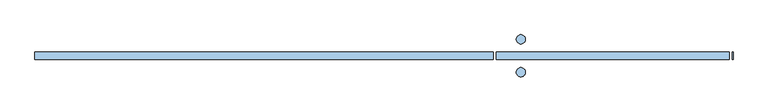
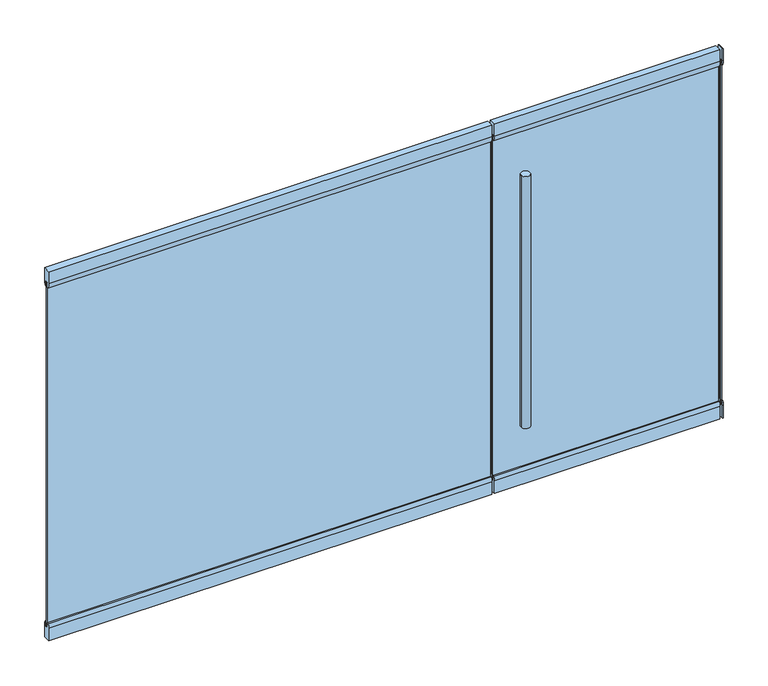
"""IFC4 building model written with IfcOpenShell, lengths in millimetres: window geometry, Herculite-1 Puerta : VL-1 - Herculite-1 Puerta 3.8 X 2.20."""

import ifcopenshell
import ifcopenshell.guid

model = None  # the IFC model being written
_history = None  # IfcOwnerHistory: only IFC2X3 demands one
_inside = {}  # id of a spatial element -> (the spatial element, [elements in it])
_under = {}  # id of a project, library or spatial element -> (it, [spatial elements below it])
_declared = {}  # id of a project -> (the project, [libraries it declares])
_typed = {}  # id of a type object -> (the type object, [elements of that type])
_made_of = {}  # id of a material, layer set ... -> (it, [elements and type objects made of it])


def new_model(schema):
    """Start an empty IFC model of exactly this schema.

    Asked for "IFC4X3", IfcOpenShell would pick the latest addendum, in which some entities
    have other attributes; the version numbers below select the first issue.
    IFC2X3 requires an IfcOwnerHistory on every rooted entity: one is made here for all.
    """
    global model, _history
    if schema == "IFC4X3":
        model = ifcopenshell.file(schema_version=(4, 3, 0, 0))
    else:
        model = ifcopenshell.file(schema=schema)
    _inside.clear()
    _under.clear()
    _declared.clear()
    _typed.clear()
    _made_of.clear()
    _history = None
    if model.schema == "IFC2X3":
        org = make("IfcOrganization", Name="unknown")
        user = make(
            "IfcPersonAndOrganization",
            ThePerson=make("IfcPerson", FamilyName="unknown"),
            TheOrganization=org,
        )
        app = make(
            "IfcApplication",
            ApplicationDeveloper=org,
            Version="unknown",
            ApplicationFullName="unknown",
            ApplicationIdentifier="unknown",
        )
        _history = make(
            "IfcOwnerHistory",
            OwningUser=user,
            OwningApplication=app,
            ChangeAction="ADDED",
            CreationDate=0,
        )
    return model


def make(cls, **values):
    """One entity of the class cls with the attributes given. An attribute that is None is left unset."""
    return model.create_entity(
        cls, **{name: value for name, value in values.items() if value is not None}
    )


def rooted(cls, **values):
    """An entity with a GlobalId (a new one), such as an element, a storey or a relation."""
    return make(cls, GlobalId=ifcopenshell.guid.new(), OwnerHistory=_history, **values)


def si_unit(unit_type, name, prefix=None):
    """IfcSIUnit, for example si_unit("LENGTHUNIT", "METRE", prefix="MILLI")."""
    return make("IfcSIUnit", UnitType=unit_type, Prefix=prefix, Name=name)


def assignment(units):
    """IfcUnitAssignment: the units of a project."""
    return None if units is None else make("IfcUnitAssignment", Units=units)


def point(xyz):
    """IfcCartesianPoint."""
    return None if xyz is None else make("IfcCartesianPoint", Coordinates=xyz)


def direction(xyz):
    """IfcDirection."""
    return None if xyz is None else make("IfcDirection", DirectionRatios=xyz)


def frame(location, z_axis=None, x_axis=None):
    """IfcAxis2Placement3D, a coordinate frame: its origin and axes. An axis left out is left unset."""
    return make(
        "IfcAxis2Placement3D",
        Location=point(location),
        Axis=direction(z_axis),
        RefDirection=direction(x_axis),
    )


def frame_2d(location, x_axis=None):
    """IfcAxis2Placement2D, a coordinate frame in the plane: its origin and x axis."""
    return make(
        "IfcAxis2Placement2D", Location=point(location), RefDirection=direction(x_axis)
    )


def origin():
    """The frame at (0, 0, 0) with its axes left unset."""
    return frame((0.0, 0.0, 0.0))


def place(relative_to, where):
    """IfcLocalPlacement: puts the frame where relative to a parent placement (None: the world)."""
    return make(
        "IfcLocalPlacement", PlacementRelTo=relative_to, RelativePlacement=where
    )


def context(
    kind, dimensions, precision=None, world=None, true_north=None, identifier=None
):
    """IfcGeometricRepresentationContext, for example the 3D "Model" context."""
    return make(
        "IfcGeometricRepresentationContext",
        ContextIdentifier=identifier,
        ContextType=kind,
        CoordinateSpaceDimension=dimensions,
        Precision=precision,
        WorldCoordinateSystem=world,
        TrueNorth=true_north,
    )


def project(units=None, contexts=None):
    """IfcProject with its units and contexts."""
    return rooted(
        "IfcProject",
        Name="project",
        RepresentationContexts=contexts,
        UnitsInContext=assignment(units),
    )


def spatial(cls, under=None, at=None, **own):
    """A site, building, storey or space (cls), placed at a placement, below another one or the project."""
    s = rooted(cls, ObjectPlacement=at, **own)
    if under is not None:
        _under.setdefault(under.id(), (under, []))[1].append(s)
    return s


def polyline(points):
    """IfcPolyline through the points."""
    return make("IfcPolyline", Points=[point(p) for p in points])


def circle_curve(where, radius):
    """IfcCircle in the frame where."""
    return make("IfcCircle", Position=where, Radius=radius)


def trimmed(basis, trim1, trim2, sense, master):
    """IfcTrimmedCurve: the piece of a basis curve between two trims."""
    return make(
        "IfcTrimmedCurve",
        BasisCurve=basis,
        Trim1=trim1,
        Trim2=trim2,
        SenseAgreement=sense,
        MasterRepresentation=master,
    )


def segment(curve, same_sense, transition):
    """IfcCompositeCurveSegment."""
    return make(
        "IfcCompositeCurveSegment",
        Transition=transition,
        SameSense=same_sense,
        ParentCurve=curve,
    )


def composite_curve(segments, self_intersect=None):
    """IfcCompositeCurve: segments joined end to end."""
    return make("IfcCompositeCurve", Segments=segments, SelfIntersect=self_intersect)


def outline(outer, holes=None, kind="AREA"):
    """IfcArbitraryClosedProfileDef: a profile drawn as a closed curve; with holes, ...WithVoids."""
    if holes is None:
        return make("IfcArbitraryClosedProfileDef", ProfileType=kind, OuterCurve=outer)
    return make(
        "IfcArbitraryProfileDefWithVoids",
        ProfileType=kind,
        OuterCurve=outer,
        InnerCurves=holes,
    )


def extrude(swept, where, along, depth):
    """IfcExtrudedAreaSolid: the profile swept, set in the frame where, extruded along a direction by depth."""
    return make(
        "IfcExtrudedAreaSolid",
        SweptArea=swept,
        Position=where,
        ExtrudedDirection=direction(along),
        Depth=depth,
    )


def shape(context_of_items, identifier, shape_type, items):
    """IfcShapeRepresentation: the items that make up one representation, for example the "Body"."""
    return make(
        "IfcShapeRepresentation",
        ContextOfItems=context_of_items,
        RepresentationIdentifier=identifier,
        RepresentationType=shape_type,
        Items=items,
    )


def source(mapping_origin, context_of_items, identifier, shape_type, items):
    """IfcRepresentationMap: a shape defined once, which mapped items show again and again."""
    return make(
        "IfcRepresentationMap",
        MappingOrigin=mapping_origin,
        MappedRepresentation=shape(context_of_items, identifier, shape_type, items),
    )


def transform(
    local_origin,
    x_axis=None,
    y_axis=None,
    z_axis=None,
    scale=None,
    scale2=None,
    scale3=None,
    uniform=True,
):
    """IfcCartesianTransformationOperator3D, or its non-uniform kind. x_axis, y_axis, z_axis: its Axis1, 2, 3."""
    if uniform:
        return make(
            "IfcCartesianTransformationOperator3D",
            Axis1=direction(x_axis),
            Axis2=direction(y_axis),
            LocalOrigin=point(local_origin),
            Scale=scale,
            Axis3=direction(z_axis),
        )
    return make(
        "IfcCartesianTransformationOperator3DnonUniform",
        Axis1=direction(x_axis),
        Axis2=direction(y_axis),
        LocalOrigin=point(local_origin),
        Scale=scale,
        Axis3=direction(z_axis),
        Scale2=scale2,
        Scale3=scale3,
    )


def mapped(mapping_source, mapping_target):
    """IfcMappedItem: shows the shape of a source again, moved by a transform."""
    return make(
        "IfcMappedItem", MappingSource=mapping_source, MappingTarget=mapping_target
    )


def made_of(thing, what):
    """Note that an element or type object is made of a material, layer set ...; save() writes the relation."""
    if what is not None:
        _made_of.setdefault(what.id(), (what, []))[1].append(thing)
    return thing


def element(
    cls,
    number,
    at=None,
    inside=None,
    cuts=None,
    type_object=None,
    material=None,
    context=None,
    identifier="Body",
    shape_type=None,
    held_by="IfcProductDefinitionShape",
    body=None,
    shapes=None,
    **own,
):
    """One element of the class cls, such as IfcWall. Its Tag is "e" and its number.

    at: its placement. inside: the storey or other place that contains it. cuts: it is an
    opening in that element (IfcRelVoidsElement). A single representation is given by context,
    identifier, shape_type and body (its items); several are given by shapes. held_by: the class
    of the entity that holds the representations. save() writes the other relations.
    """
    e = rooted(cls, Tag="e%d" % number, ObjectPlacement=at, **own)
    if body is not None:
        shapes = [shape(context, identifier, shape_type, body)]
    if shapes is not None:
        e.Representation = make(held_by, Representations=shapes)
    if inside is not None:
        _inside.setdefault(inside.id(), (inside, []))[1].append(e)
    if cuts is not None:
        rooted(
            "IfcRelVoidsElement", RelatingBuildingElement=cuts, RelatedOpeningElement=e
        )
    if type_object is not None:
        _typed.setdefault(type_object.id(), (type_object, []))[1].append(e)
    return made_of(e, material)


def aggregate(whole, parts):
    """IfcRelAggregates: a whole, such as a stair, and the parts it consists of."""
    return rooted("IfcRelAggregates", RelatingObject=whole, RelatedObjects=parts)


def save(model, path):
    """Write the relations noted so far, then the file.

    IfcRelAggregates (storeys below a building ...), IfcRelContainedInSpatialStructure (elements
    in a storey), IfcRelDefinesByType, IfcRelAssociatesMaterial and IfcRelDeclares: one each for
    every whole, place, type object, material and project.
    """
    for whole, parts in _under.values():
        aggregate(whole, parts)
    for where, things in _inside.values():
        rooted(
            "IfcRelContainedInSpatialStructure",
            RelatedElements=things,
            RelatingStructure=where,
        )
    for kind, things in _typed.values():
        rooted("IfcRelDefinesByType", RelatedObjects=things, RelatingType=kind)
    for what, things in _made_of.values():
        rooted("IfcRelAssociatesMaterial", RelatedObjects=things, RelatingMaterial=what)
    for by, libraries in _declared.values():
        rooted("IfcRelDeclares", RelatingContext=by, RelatedDefinitions=libraries)
    model.write(path)


def window_6fcca72a(model_context):
    return source(origin(), model_context, "Body", "SweptSolid", [
        extrude(outline(composite_curve([segment(polyline([(-7.5, 2100.0), (-15.0, 2100.0)]), True, "CONTINUOUS"), segment(trimmed(circle_curve(frame_2d((80.0, 2131.22499)), 100.0), [point((-15.0, 2100.0))], [point((-20.0, 2131.22499))], False, "CARTESIAN"), True, "CONTINUOUS"), segment(polyline([(-20.0, 2131.22499), (-20.0, 2200.0), (20.0, 2200.0), (20.0, 2131.22499)]), True, "CONTINUOUS"), segment(trimmed(circle_curve(frame_2d((-80.0, 2131.22499)), 100.0), [point((20.0, 2131.22499))], [point((15.0, 2100.0))], False, "CARTESIAN"), True, "CONTINUOUS"), segment(polyline([(15.0, 2100.0), (7.5, 2100.0), (7.5, 2130.0), (-7.5, 2130.0), (-7.5, 2100.0)]), True, "CONTINUOUS")], self_intersect=False)), frame((610.0, 0.0, 0.0), z_axis=(1.0, 0.0, 0.0), x_axis=(0.0, 1.0, 0.0)), (0.0, 0.0, 1.0), 1270.0),
        extrude(outline(composite_curve([segment(polyline([(-7.5, 2100.0), (-15.0, 2100.0)]), True, "CONTINUOUS"), segment(trimmed(circle_curve(frame_2d((80.0, 2131.22499)), 100.0), [point((-15.0, 2100.0))], [point((-20.0, 2131.22499))], False, "CARTESIAN"), True, "CONTINUOUS"), segment(polyline([(-20.0, 2131.22499), (-20.0, 2200.0), (20.0, 2200.0), (20.0, 2131.22499)]), True, "CONTINUOUS"), segment(trimmed(circle_curve(frame_2d((-80.0, 2131.22499)), 100.0), [point((20.0, 2131.22499))], [point((15.0, 2100.0))], False, "CARTESIAN"), True, "CONTINUOUS"), segment(polyline([(15.0, 2100.0), (7.5, 2100.0), (7.5, 2130.0), (-7.5, 2130.0), (-7.5, 2100.0)]), True, "CONTINUOUS")], self_intersect=False)), frame((1895.0, 0.0, 0.0), z_axis=(1.0, 0.0, 0.0), x_axis=(0.0, 1.0, 0.0)), (0.0, 0.0, 1.0), 5.0),
        extrude(outline(composite_curve([segment(polyline([(-7.5, 2100.0), (-15.0, 2100.0)]), True, "CONTINUOUS"), segment(trimmed(circle_curve(frame_2d((80.0, 2131.22499)), 100.0), [point((-15.0, 2100.0))], [point((-20.0, 2131.22499))], False, "CARTESIAN"), True, "CONTINUOUS"), segment(polyline([(-20.0, 2131.22499), (-20.0, 2200.0), (20.0, 2200.0), (20.0, 2131.22499)]), True, "CONTINUOUS"), segment(trimmed(circle_curve(frame_2d((-80.0, 2131.22499)), 100.0), [point((20.0, 2131.22499))], [point((15.0, 2100.0))], False, "CARTESIAN"), True, "CONTINUOUS"), segment(polyline([(15.0, 2100.0), (7.5, 2100.0), (7.5, 2130.0), (-7.5, 2130.0), (-7.5, 2100.0)]), True, "CONTINUOUS")], self_intersect=False)), frame((-1900.0, 0.0, 0.0), z_axis=(1.0, 0.0, 0.0), x_axis=(0.0, 1.0, 0.0)), (0.0, 0.0, 1.0), 2495.0),
        extrude(outline(composite_curve([segment(trimmed(circle_curve(frame_2d((745.1, -90.00005)), 25.0), [point((720.1, -90.00005))], [point((770.1, -90.00005))], False, "CARTESIAN"), True, "CONTINUOUS"), segment(trimmed(circle_curve(frame_2d((745.1, -90.00005)), 25.0), [point((770.1, -90.00005))], [point((720.1, -90.00005))], False, "CARTESIAN"), True, "CONTINUOUS")], self_intersect=False)), frame((0.0, 0.0, 400.0), z_axis=(0.0, 0.0, 1.0), x_axis=(1.0, 0.0, 0.0)), (0.0, 0.0, 1.0), 1500.0),
        extrude(outline(composite_curve([segment(trimmed(circle_curve(frame_2d((745.1, 90.00005)), 25.0), [point((720.1, 90.00005))], [point((770.1, 90.00005))], False, "CARTESIAN"), True, "CONTINUOUS"), segment(trimmed(circle_curve(frame_2d((745.1, 90.00005)), 25.0), [point((770.1, 90.00005))], [point((720.1, 90.00005))], False, "CARTESIAN"), True, "CONTINUOUS")], self_intersect=False)), frame((0.0, 0.0, 400.0), z_axis=(0.0, 0.0, 1.0), x_axis=(1.0, 0.0, 0.0)), (0.0, 0.0, 1.0), 1500.0),
        extrude(outline(composite_curve([segment(polyline([(-7.5, 100.0), (-7.5, 70.0), (7.5, 70.0), (7.5, 100.0), (15.0, 100.0)]), True, "CONTINUOUS"), segment(trimmed(circle_curve(frame_2d((-45.0, 75.0)), 65.0), [point((15.0, 100.0))], [point((20.0, 75.0))], False, "CARTESIAN"), True, "CONTINUOUS"), segment(polyline([(20.0, 75.0), (20.0, 0.0), (-20.0, 0.0), (-20.0, 75.0)]), True, "CONTINUOUS"), segment(trimmed(circle_curve(frame_2d((45.0, 75.0)), 65.0), [point((-20.0, 75.0))], [point((-15.0, 100.0))], False, "CARTESIAN"), True, "CONTINUOUS"), segment(polyline([(-15.0, 100.0), (-7.5, 100.0)]), True, "CONTINUOUS")], self_intersect=False)), frame((610.0, 0.0, 0.0), z_axis=(1.0, 0.0, 0.0), x_axis=(0.0, 1.0, 0.0)), (0.0, 0.0, 1.0), 1270.0),
        extrude(outline(polyline([(610.0, -5.5), (610.0, 5.5), (1880.0, 5.5), (1880.0, -5.5), (610.0, -5.5)])), frame((0.0, 0.0, 72.0), z_axis=(0.0, 0.0, 1.0), x_axis=(1.0, 0.0, 0.0)), (0.0, 0.0, 1.0), 2056.0),
        extrude(outline(composite_curve([segment(polyline([(-7.5, 100.0), (-7.5, 70.0), (7.5, 70.0), (7.5, 100.0), (15.0, 100.0)]), True, "CONTINUOUS"), segment(trimmed(circle_curve(frame_2d((-45.0, 75.0)), 65.0), [point((15.0, 100.0))], [point((20.0, 75.0))], False, "CARTESIAN"), True, "CONTINUOUS"), segment(polyline([(20.0, 75.0), (20.0, 0.0), (-20.0, 0.0), (-20.0, 75.0)]), True, "CONTINUOUS"), segment(trimmed(circle_curve(frame_2d((45.0, 75.0)), 65.0), [point((-20.0, 75.0))], [point((-15.0, 100.0))], False, "CARTESIAN"), True, "CONTINUOUS"), segment(polyline([(-15.0, 100.0), (-7.5, 100.0)]), True, "CONTINUOUS")], self_intersect=False)), frame((1895.0, 0.0, 0.0), z_axis=(1.0, 0.0, 0.0), x_axis=(0.0, 1.0, 0.0)), (0.0, 0.0, 1.0), 5.0),
        extrude(outline(composite_curve([segment(polyline([(-7.5, 100.0), (-7.5, 70.0), (7.5, 70.0), (7.5, 100.0), (15.0, 100.0)]), True, "CONTINUOUS"), segment(trimmed(circle_curve(frame_2d((-45.0, 75.0)), 65.0), [point((15.0, 100.0))], [point((20.0, 75.0))], False, "CARTESIAN"), True, "CONTINUOUS"), segment(polyline([(20.0, 75.0), (20.0, 0.0), (-20.0, 0.0), (-20.0, 75.0)]), True, "CONTINUOUS"), segment(trimmed(circle_curve(frame_2d((45.0, 75.0)), 65.0), [point((-20.0, 75.0))], [point((-15.0, 100.0))], False, "CARTESIAN"), True, "CONTINUOUS"), segment(polyline([(-15.0, 100.0), (-7.5, 100.0)]), True, "CONTINUOUS")], self_intersect=False)), frame((-1900.0, 0.0, 0.0), z_axis=(1.0, 0.0, 0.0), x_axis=(0.0, 1.0, 0.0)), (0.0, 0.0, 1.0), 2495.0),
        extrude(outline(polyline([(1895.0, -5.5), (1895.0, 5.5), (1900.0, 5.5), (1900.0, -5.5), (1895.0, -5.5)])), frame((0.0, 0.0, 72.0), z_axis=(0.0, 0.0, 1.0), x_axis=(1.0, 0.0, 0.0)), (0.0, 0.0, 1.0), 2056.0),
        extrude(outline(polyline([(-1900.0, -5.5), (-1900.0, 5.5), (595.0, 5.5), (595.0, -5.5), (-1900.0, -5.5)])), frame((0.0, 0.0, 72.0), z_axis=(0.0, 0.0, 1.0), x_axis=(1.0, 0.0, 0.0)), (0.0, 0.0, 1.0), 2056.0),
    ])


if __name__ == "__main__":
    model = new_model("IFC4")
    model_context = context("Model", 3, world=origin())
    ifc_project = project(units=[si_unit("LENGTHUNIT", "METRE", prefix="MILLI")], contexts=[model_context])
    site = spatial("IfcSite", under=ifc_project)
    building = spatial("IfcBuilding", under=site)
    placement = place(None, origin())
    window_shape = window_6fcca72a(model_context)
    element("IfcWindow", 1, ObjectType="Herculite-1 Puerta : VL-1 - Herculite-1 Puerta 3.8 X 2.20", at=placement, inside=building, context=model_context, shape_type="MappedRepresentation", body=[
        mapped(window_shape, transform((0.0, 0.0, 0.0), x_axis=(1.0, 0.0, 0.0), y_axis=(0.0, 1.0, 0.0), z_axis=(0.0, 0.0, 1.0))),
    ])
    save(model, "model.ifc")
